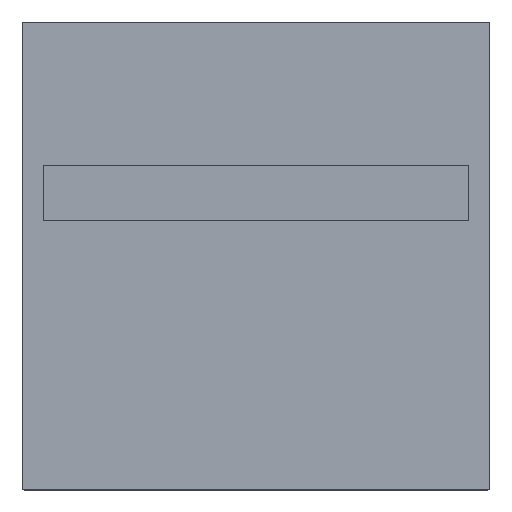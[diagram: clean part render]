
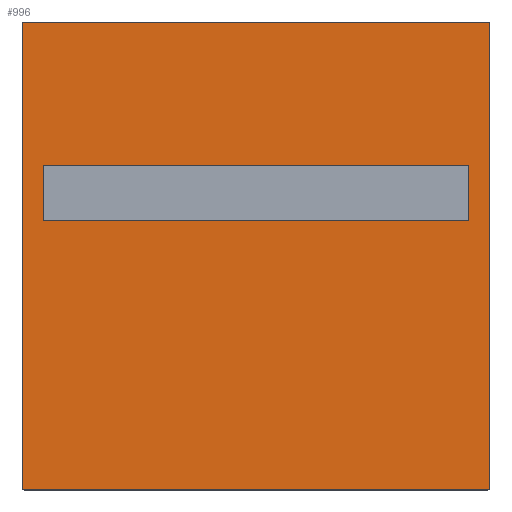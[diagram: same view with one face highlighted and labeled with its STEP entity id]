
A CAD part, top view. The second image highlights one B-rep face of the part: STEP entity #996.
In plain terms, the highlighted planar face has unit normal (0, 0, 1).
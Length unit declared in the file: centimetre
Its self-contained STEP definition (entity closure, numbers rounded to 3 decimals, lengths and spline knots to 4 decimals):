
#20=FACE_BOUND('',#186,.T.);
#49=CIRCLE('',#1086,0.05);
#54=CIRCLE('',#1094,0.05);
#55=CIRCLE('',#1097,0.05);
#56=CIRCLE('',#1100,0.05);
#126=FACE_OUTER_BOUND('',#185,.T.);
#185=EDGE_LOOP('',(#837,#838,#839,#840,#841,#842,#843,#844));
#186=EDGE_LOOP('',(#845,#846,#847,#848));
#255=LINE('',#1571,#351);
#259=LINE('',#1579,#355);
#262=LINE('',#1585,#358);
#265=LINE('',#1590,#361);
#271=LINE('',#1606,#367);
#277=LINE('',#1626,#373);
#280=LINE('',#1634,#376);
#282=LINE('',#1640,#378);
#351=VECTOR('',#1303,1.);
#355=VECTOR('',#1309,1.);
#358=VECTOR('',#1314,1.);
#361=VECTOR('',#1319,1.);
#367=VECTOR('',#1333,1.);
#373=VECTOR('',#1353,1.);
#376=VECTOR('',#1362,1.);
#378=VECTOR('',#1370,1.);
#441=VERTEX_POINT('',#1569);
#442=VERTEX_POINT('',#1570);
#445=VERTEX_POINT('',#1578);
#447=VERTEX_POINT('',#1584);
#449=VERTEX_POINT('',#1593);
#450=VERTEX_POINT('',#1594);
#454=VERTEX_POINT('',#1604);
#460=VERTEX_POINT('',#1620);
#461=VERTEX_POINT('',#1624);
#462=VERTEX_POINT('',#1628);
#463=VERTEX_POINT('',#1629);
#464=VERTEX_POINT('',#1636);
#557=EDGE_CURVE('',#441,#442,#255,.T.);
#561=EDGE_CURVE('',#445,#441,#259,.T.);
#564=EDGE_CURVE('',#447,#445,#262,.T.);
#567=EDGE_CURVE('',#442,#447,#265,.T.);
#569=EDGE_CURVE('',#449,#450,#49,.T.);
#575=EDGE_CURVE('',#454,#449,#271,.T.);
#582=EDGE_CURVE('',#460,#454,#54,.T.);
#585=EDGE_CURVE('',#461,#460,#277,.T.);
#586=EDGE_CURVE('',#462,#463,#55,.T.);
#589=EDGE_CURVE('',#450,#462,#280,.T.);
#590=EDGE_CURVE('',#464,#461,#56,.T.);
#592=EDGE_CURVE('',#463,#464,#282,.T.);
#837=ORIENTED_EDGE('',*,*,#569,.F.);
#838=ORIENTED_EDGE('',*,*,#575,.F.);
#839=ORIENTED_EDGE('',*,*,#582,.F.);
#840=ORIENTED_EDGE('',*,*,#585,.F.);
#841=ORIENTED_EDGE('',*,*,#590,.F.);
#842=ORIENTED_EDGE('',*,*,#592,.F.);
#843=ORIENTED_EDGE('',*,*,#586,.F.);
#844=ORIENTED_EDGE('',*,*,#589,.F.);
#845=ORIENTED_EDGE('',*,*,#557,.T.);
#846=ORIENTED_EDGE('',*,*,#567,.T.);
#847=ORIENTED_EDGE('',*,*,#564,.T.);
#848=ORIENTED_EDGE('',*,*,#561,.T.);
#884=PLANE('',#1102);
#996=ADVANCED_FACE('',(#126,#20),#884,.T.);
#1086=AXIS2_PLACEMENT_3D('',#1595,#1323,#1324);
#1094=AXIS2_PLACEMENT_3D('',#1621,#1347,#1348);
#1097=AXIS2_PLACEMENT_3D('',#1630,#1356,#1357);
#1100=AXIS2_PLACEMENT_3D('',#1637,#1365,#1366);
#1102=AXIS2_PLACEMENT_3D('',#1641,#1371,#1372);
#1303=DIRECTION('',(0.,1.,0.));
#1309=DIRECTION('',(-1.,0.,0.));
#1314=DIRECTION('',(0.,-1.,0.));
#1319=DIRECTION('',(1.,0.,0.));
#1323=DIRECTION('center_axis',(0.,0.,
-1.));
#1324=DIRECTION('ref_axis',(-0.707,-0.707,0.));
#1333=DIRECTION('',(-1.,0.,0.));
#1347=DIRECTION('center_axis',(0.,0.,
-1.));
#1348=DIRECTION('ref_axis',(0.707,-0.707,0.));
#1353=DIRECTION('',(0.,-1.,0.));
#1356=DIRECTION('center_axis',(0.,0.,
-1.));
#1357=DIRECTION('ref_axis',(-0.707,0.707,0.));
#1362=DIRECTION('',(0.,1.,0.));
#1365=DIRECTION('center_axis',(0.,0.,
-1.));
#1366=DIRECTION('ref_axis',(0.707,0.707,0.));
#1370=DIRECTION('',(1.,0.,0.));
#1371=DIRECTION('center_axis',(0.,0.,
1.));
#1372=DIRECTION('ref_axis',(1.,0.,0.));
#1569=CARTESIAN_POINT('',(-4.4,0.95,0.));
#1570=CARTESIAN_POINT('',(-4.4,1.85,0.));
#1571=CARTESIAN_POINT('',(-4.4,0.475,0.));
#1578=CARTESIAN_POINT('',(4.4,0.95,0.));
#1579=CARTESIAN_POINT('',(2.2,0.95,0.));
#1584=CARTESIAN_POINT('',(4.4,1.85,0.));
#1585=CARTESIAN_POINT('',(4.4,0.925,0.));
#1590=CARTESIAN_POINT('',(-2.2,1.85,0.));
#1593=CARTESIAN_POINT('',(-5.45,-5.5,0.));
#1594=CARTESIAN_POINT('',(-5.5,-5.45,0.));
#1595=CARTESIAN_POINT('Origin',(-5.45,-5.45,0.));
#1604=CARTESIAN_POINT('',(5.45,-5.5,0.));
#1606=CARTESIAN_POINT('',(-5.5,-5.5,0.));
#1620=CARTESIAN_POINT('',(5.5,-5.45,0.));
#1621=CARTESIAN_POINT('Origin',(5.45,-5.45,0.));
#1624=CARTESIAN_POINT('',(5.5,5.45,0.));
#1626=CARTESIAN_POINT('',(5.5,-5.5,0.));
#1628=CARTESIAN_POINT('',(-5.5,5.45,0.));
#1629=CARTESIAN_POINT('',(-5.45,5.5,0.));
#1630=CARTESIAN_POINT('Origin',(-5.45,5.45,0.));
#1634=CARTESIAN_POINT('',(-5.5,5.5,0.));
#1636=CARTESIAN_POINT('',(5.45,5.5,0.));
#1637=CARTESIAN_POINT('Origin',(5.45,5.45,0.));
#1640=CARTESIAN_POINT('',(5.5,5.5,0.));
#1641=CARTESIAN_POINT('Origin',(0.,0.,
0.));
